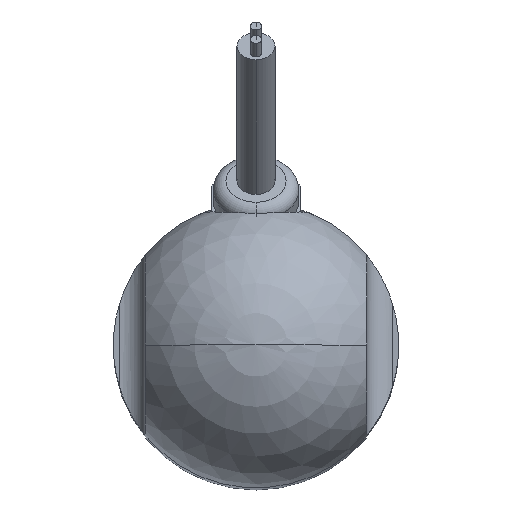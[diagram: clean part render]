
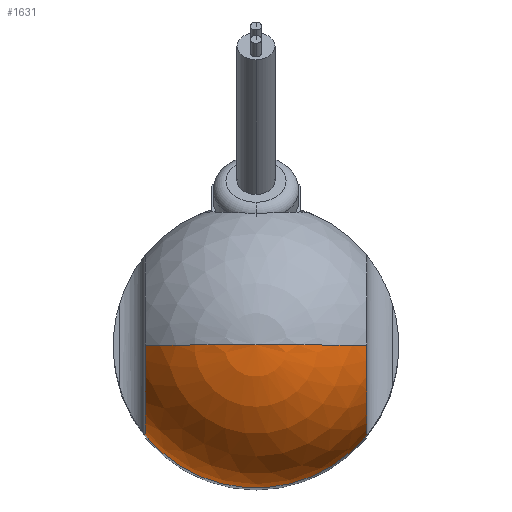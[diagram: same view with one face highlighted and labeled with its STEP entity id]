
A CAD part, top view. The second image highlights one B-rep face of the part: STEP entity #1631.
In plain terms, the highlighted spherical face has radius 22.5 mm.
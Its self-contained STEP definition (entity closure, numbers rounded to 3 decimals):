
#225=CARTESIAN_POINT('',(0.,0.,0.));
#226=DIRECTION('',(0.,0.,-1.));
#227=DIRECTION('',(0.778,-0.629,0.));
#228=AXIS2_PLACEMENT_3D('',#225,#226,#227);
#294=CARTESIAN_POINT('',(17.5,0.,0.));
#295=DIRECTION('',(-1.,0.,0.));
#296=DIRECTION('',(0.,-1.,0.));
#297=AXIS2_PLACEMENT_3D('',#294,#295,#296);
#299=CARTESIAN_POINT('',(-17.5,0.,0.));
#300=DIRECTION('',(1.,0.,0.));
#301=DIRECTION('',(0.,0.,1.));
#302=AXIS2_PLACEMENT_3D('',#299,#300,#301);
#304=CARTESIAN_POINT('',(0.,0.,0.));
#305=DIRECTION('',(0.,-1.,0.));
#306=DIRECTION('',(0.,0.,1.));
#307=AXIS2_PLACEMENT_3D('',#304,#305,#306);
#309=CARTESIAN_POINT('',(0.,0.,0.));
#310=DIRECTION('',(0.,1.,0.));
#311=DIRECTION('',(0.,0.,1.));
#312=AXIS2_PLACEMENT_3D('',#309,#310,#311);
#1118=CARTESIAN_POINT('',(17.5,0.,14.142));
#1120=VERTEX_POINT('',#1118);
#1123=CARTESIAN_POINT('',(-17.5,0.,14.142));
#1125=VERTEX_POINT('',#1123);
#1130=CARTESIAN_POINT('',(17.5,-14.142,0.));
#1131=VERTEX_POINT('',#1130);
#1132=CARTESIAN_POINT('',(-17.5,-14.142,0.));
#1133=VERTEX_POINT('',#1132);
#1138=CARTESIAN_POINT('',(0.,0.,22.5));
#1139=VERTEX_POINT('',#1138);
#1619=CARTESIAN_POINT('',(0.,0.,0.));
#1620=DIRECTION('',(0.,0.,1.));
#1621=DIRECTION('',(-1.,0.,0.));
#1622=AXIS2_PLACEMENT_3D('',#1619,#1620,#1621);
#1623=SPHERICAL_SURFACE('',#1622,22.5);
#1624=ORIENTED_EDGE('',*,*,#1512,.F.);
#1625=ORIENTED_EDGE('',*,*,#1562,.T.);
#1626=ORIENTED_EDGE('',*,*,#1607,.F.);
#1627=ORIENTED_EDGE('',*,*,#1482,.F.);
#1628=ORIENTED_EDGE('',*,*,#1480,.T.);
#1629=EDGE_LOOP('',(#1624,#1625,#1626,#1627,#1628));
#1630=FACE_OUTER_BOUND('',#1629,.F.);
#229=CIRCLE('',#228,22.5);
#298=CIRCLE('',#297,14.142);
#303=CIRCLE('',#302,14.142);
#308=CIRCLE('',#307,22.5);
#313=CIRCLE('',#312,22.5);
#1480=EDGE_CURVE('',#1139,#1120,#313,.T.);
#1482=EDGE_CURVE('',#1139,#1125,#308,.T.);
#1512=EDGE_CURVE('',#1131,#1120,#298,.T.);
#1562=EDGE_CURVE('',#1131,#1133,#229,.T.);
#1607=EDGE_CURVE('',#1125,#1133,#303,.T.);
#1631=ADVANCED_FACE('',(#1630),#1623,.T.);
